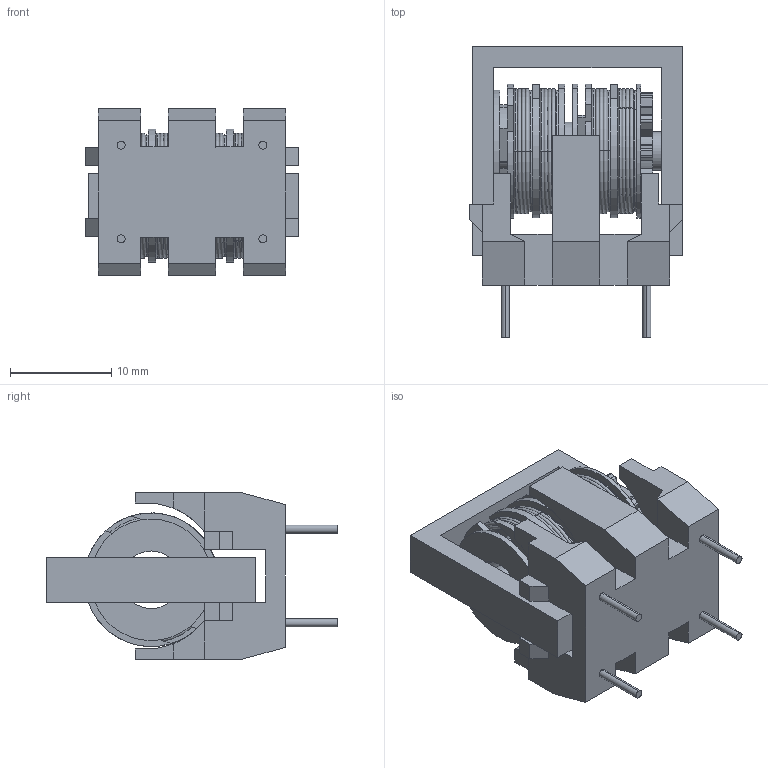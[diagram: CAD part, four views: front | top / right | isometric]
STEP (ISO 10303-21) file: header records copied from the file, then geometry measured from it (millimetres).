
FILE_DESCRIPTION (( 'STEP AP214' ), '1' );
FILE_NAME ('20V Series.STEP', '2020-08-08T18:31:22', ( '' ), ( '' ), 'SwSTEP 2.0', 'SolidWorks 2015', '' );
FILE_SCHEMA (( 'AUTOMOTIVE_DESIGN' ));
Length unit declared in the file: inch
Products named in the file (1): 20V Series
Bounding box: 21.1 x 28.71 x 16.45 mm (x, y, z)
Surface area: 5471.3 mm2 (no closed solid volume)
Topology: 0 solids, 7 shells, 351 faces, 1058 edges, 698 vertices
Faces by surface type: plane 157, torus 100, cylinder 94
Entity records: 16539 total; most frequent: DIRECTION 2243, CARTESIAN_POINT 2120, ORIENTED_EDGE 1918, EDGE_CURVE 1058, AXIS2_PLACEMENT_3D 837, VERTEX_POINT 698, LINE 569, VECTOR 569
